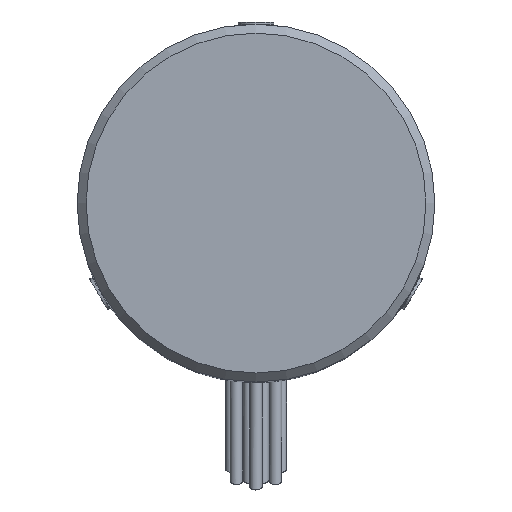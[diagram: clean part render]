
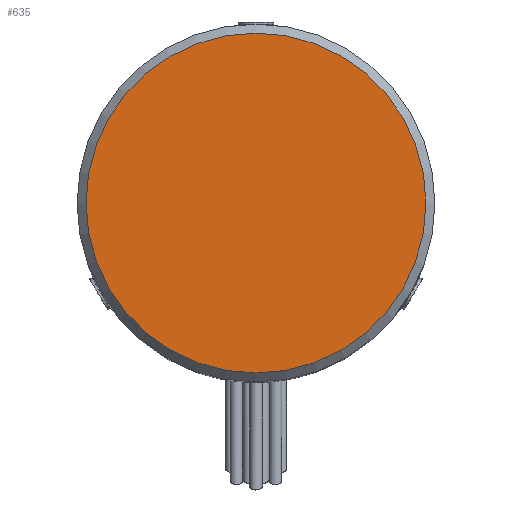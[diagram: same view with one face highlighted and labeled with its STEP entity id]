
A CAD part, top view. The second image highlights one B-rep face of the part: STEP entity #635.
In plain terms, the highlighted planar face has unit normal (0, 0, 1).
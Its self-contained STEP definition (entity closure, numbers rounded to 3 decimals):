
#635=ADVANCED_FACE('',(#1134),#1135,.T.);
#1134=FACE_OUTER_BOUND('',#1773,.T.);
#1135=PLANE('',#1774);
#1773=EDGE_LOOP('',(#2509));
#1774=AXIS2_PLACEMENT_3D('',#2510,#2511,#2512);
#2509=ORIENTED_EDGE('',*,*,#3155,.T.);
#2510=CARTESIAN_POINT('',(0.,0.,21.0));
#2511=DIRECTION('',(0.0,0.0,1.0));
#2512=DIRECTION('',(1.0,0.0,0.0));
#3155=EDGE_CURVE('',#3582,#3582,#3583,.T.);
#3582=VERTEX_POINT('',#4457);
#3583=CIRCLE('',#4458,9.5);
#4457=CARTESIAN_POINT('',(9.5,0.,21.0));
#4458=AXIS2_PLACEMENT_3D('',#5099,#5100,#5101);
#5099=CARTESIAN_POINT('',(0.,0.,21.0));
#5100=DIRECTION('',(0.0,0.0,1.0));
#5101=DIRECTION('',(1.0,0.0,0.0));
